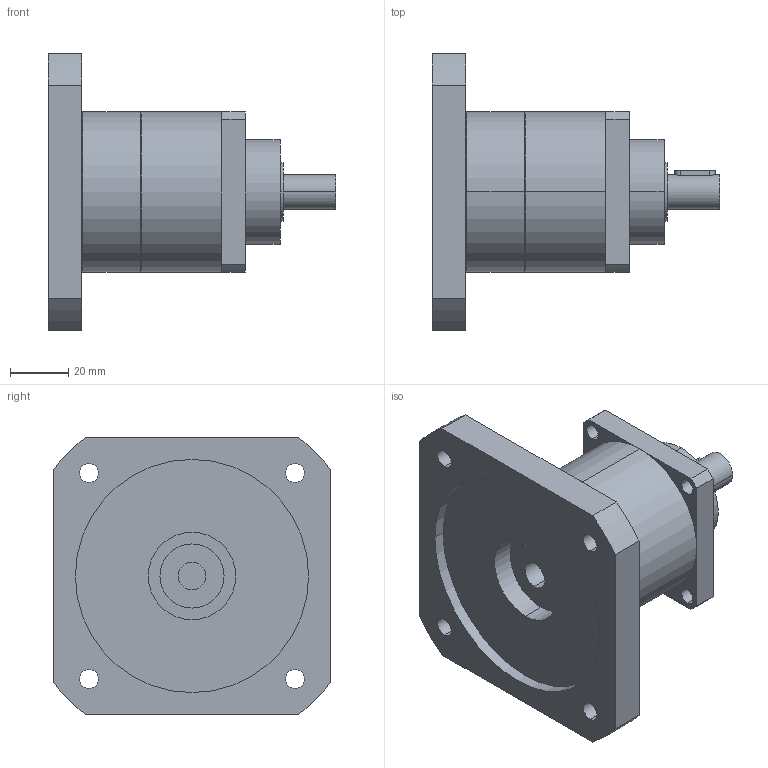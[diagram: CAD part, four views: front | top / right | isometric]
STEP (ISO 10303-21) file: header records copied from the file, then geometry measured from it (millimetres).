
FILE_DESCRIPTION(('CoCreate Modeling STEP Export'),'2;1');
FILE_NAME('GPT55_ig-3-4-5-7-10_12_B5A_9.52_P07.stp','2014-08-25T14:34:51',(''),(''),'CoCreate Modeling STEP processor for AP214 (Solid Model)','CoCreate Modeling 16.00C 25-Feb-2009 (C) Parametric Technology GmbH','');
FILE_SCHEMA(('AUTOMOTIVE_DESIGN { 1 0 10303 214 1 1 1 1 }'));
Length unit declared in the file: millimetre
Products named in the file (2): GPT55_ig-3-4-5-7-10_12_B5A_9.52_P07
Assembly tree (1 placements, depth 2):
  GPT55_ig-3-4-5-7-10_12_B5A_9.52_P07
    GPT55_ig-3-4-5-7-10_12_B5A_9.52_P07
Bounding box: 98.5 x 95.09 x 95.09 mm (x, y, z)
Volume: 225913.3 mm3; surface area: 39070.9 mm2
Topology: 1 solids, 1 shells, 77 faces, 197 edges, 132 vertices
Faces by surface type: cylinder 46, plane 27, cone 4
Entity records: 2480 total; most frequent: CARTESIAN_POINT 703, ORIENTED_EDGE 394, DIRECTION 318, EDGE_CURVE 197, VERTEX_POINT 132, AXIS2_PLACEMENT_3D 117, EDGE_LOOP 103, VECTOR 84
